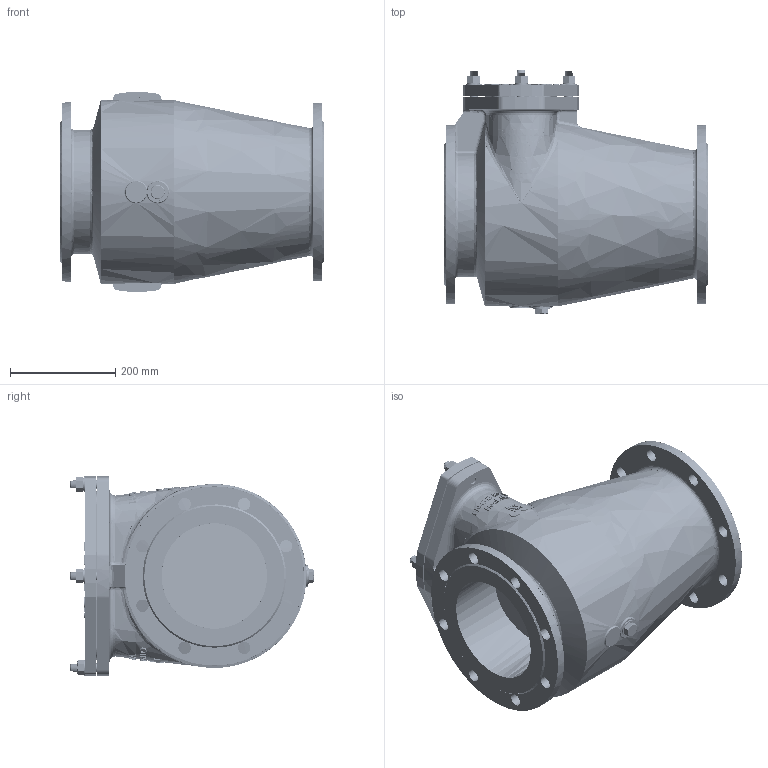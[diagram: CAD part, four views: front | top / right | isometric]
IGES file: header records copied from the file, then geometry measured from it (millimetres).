
Start section: P
Global section: file name: PSA ELA DN200 PN10.igs; native system: By Siemens PLM Incorporated; preprocessor: XPlus GENERIC/IGES 25.1.153; author: Christin-Michelle Fremgen; organization: PSA Wasserarmaturen GmbH; date: 20241016.120052; units: millimetre
Bounding box: 500 x 461.19 x 380 mm (x, y, z)
Surface area: 1753911.6 mm2 (no closed solid volume)
Topology: 0 solids, 0 shells, 1972 faces, 10871 edges, 10842 vertices
Faces by surface type: bspline 1972
